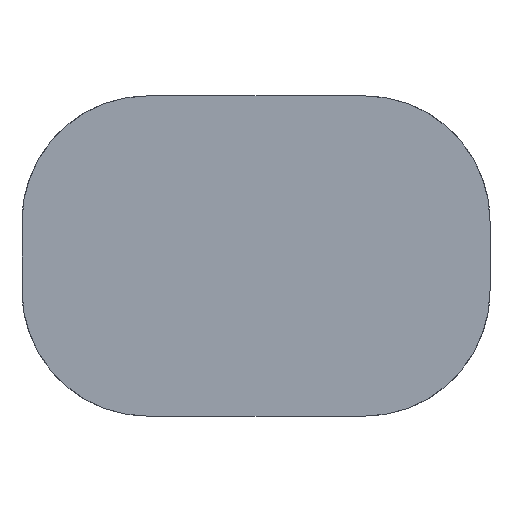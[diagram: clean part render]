
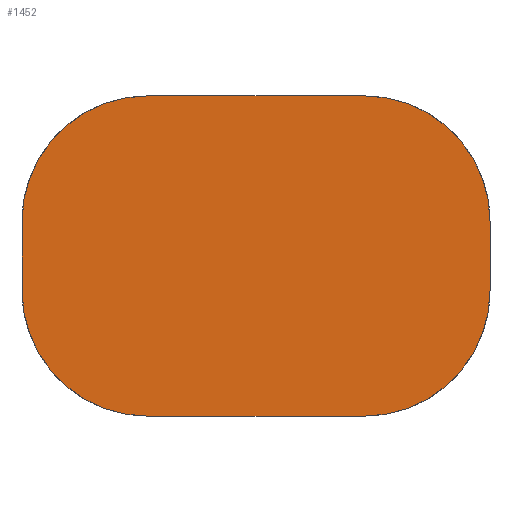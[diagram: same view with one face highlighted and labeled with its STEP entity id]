
A CAD part, left-side view. The second image highlights one B-rep face of the part: STEP entity #1452.
In plain terms, the highlighted planar face has unit normal (-1, 0, 0).
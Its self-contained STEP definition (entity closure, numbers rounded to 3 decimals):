
#33 = PLANE('',#34);
#34 = AXIS2_PLACEMENT_3D('',#35,#36,#37);
#35 = CARTESIAN_POINT('',(40.9,20.5,6.5));
#36 = DIRECTION('',(0.,0.,-1.));
#37 = DIRECTION('',(1.,0.,0.));
#85 = VERTEX_POINT('',#86);
#86 = CARTESIAN_POINT('',(43.1,25.6,6.5));
#100 = CYLINDRICAL_SURFACE('',#101,5.1);
#101 = AXIS2_PLACEMENT_3D('',#102,#103,#104);
#102 = CARTESIAN_POINT('',(40.9,25.6,1.4));
#103 = DIRECTION('',(1.,0.,0.));
#104 = DIRECTION('',(0.,0.,1.));
#112 = EDGE_CURVE('',#113,#85,#115,.T.);
#113 = VERTEX_POINT('',#114);
#114 = CARTESIAN_POINT('',(43.1,34.4,6.5));
#115 = SURFACE_CURVE('',#116,(#120,#127),.PCURVE_S1.);
#116 = LINE('',#117,#118);
#117 = CARTESIAN_POINT('',(43.1,0.25,6.5));
#118 = VECTOR('',#119,1.);
#119 = DIRECTION('',(0.,-1.,0.));
#120 = PCURVE('',#33,#121);
#121 = DEFINITIONAL_REPRESENTATION('',(#122),#126);
#122 = LINE('',#123,#124);
#123 = CARTESIAN_POINT('',(2.2,20.25));
#124 = VECTOR('',#125,1.);
#125 = DIRECTION('',(0.,1.));
#126 = ( GEOMETRIC_REPRESENTATION_CONTEXT(2) 
PARAMETRIC_REPRESENTATION_CONTEXT() REPRESENTATION_CONTEXT('2D SPACE',''
  ) );
#127 = PCURVE('',#128,#133);
#128 = PLANE('',#129);
#129 = AXIS2_PLACEMENT_3D('',#130,#131,#132);
#130 = CARTESIAN_POINT('',(43.1,-20.,-25.));
#131 = DIRECTION('',(1.,0.,0.));
#132 = DIRECTION('',(0.,0.,1.));
#133 = DEFINITIONAL_REPRESENTATION('',(#134),#138);
#134 = LINE('',#135,#136);
#135 = CARTESIAN_POINT('',(31.5,-20.25));
#136 = VECTOR('',#137,1.);
#137 = DIRECTION('',(0.,1.));
#138 = ( GEOMETRIC_REPRESENTATION_CONTEXT(2) 
PARAMETRIC_REPRESENTATION_CONTEXT() REPRESENTATION_CONTEXT('2D SPACE',''
  ) );
#154 = CYLINDRICAL_SURFACE('',#155,5.1);
#155 = AXIS2_PLACEMENT_3D('',#156,#157,#158);
#156 = CARTESIAN_POINT('',(40.9,34.4,1.4));
#157 = DIRECTION('',(1.,0.,0.));
#158 = DIRECTION('',(0.,0.,1.));
#216 = PLANE('',#217);
#217 = AXIS2_PLACEMENT_3D('',#218,#219,#220);
#218 = CARTESIAN_POINT('',(40.9,39.5,6.5));
#219 = DIRECTION('',(0.,1.,0.));
#220 = DIRECTION('',(1.,-0.,0.));
#302 = CYLINDRICAL_SURFACE('',#303,5.1);
#303 = AXIS2_PLACEMENT_3D('',#304,#305,#306);
#304 = CARTESIAN_POINT('',(40.9,34.4,-1.4));
#305 = DIRECTION('',(1.,0.,0.));
#306 = DIRECTION('',(0.,0.,-1.));
#387 = PLANE('',#388);
#388 = AXIS2_PLACEMENT_3D('',#389,#390,#391);
#389 = CARTESIAN_POINT('',(40.9,20.5,-6.5));
#390 = DIRECTION('',(0.,0.,-1.));
#391 = DIRECTION('',(1.,0.,0.));
#473 = CYLINDRICAL_SURFACE('',#474,5.1);
#474 = AXIS2_PLACEMENT_3D('',#475,#476,#477);
#475 = CARTESIAN_POINT('',(40.9,25.6,-1.4));
#476 = DIRECTION('',(1.,0.,0.));
#477 = DIRECTION('',(0.,0.,-1.));
#536 = PLANE('',#537);
#537 = AXIS2_PLACEMENT_3D('',#538,#539,#540);
#538 = CARTESIAN_POINT('',(40.9,20.5,6.5));
#539 = DIRECTION('',(0.,1.,0.));
#540 = DIRECTION('',(1.,-0.,0.));
#1408 = VERTEX_POINT('',#1409);
#1409 = CARTESIAN_POINT('',(43.1,39.5,1.4));
#1430 = EDGE_CURVE('',#1408,#113,#1431,.T.);
#1431 = SURFACE_CURVE('',#1432,(#1437,#1444),.PCURVE_S1.);
#1432 = CIRCLE('',#1433,5.1);
#1433 = AXIS2_PLACEMENT_3D('',#1434,#1435,#1436);
#1434 = CARTESIAN_POINT('',(43.1,34.4,1.4));
#1435 = DIRECTION('',(1.,0.,0.));
#1436 = DIRECTION('',(0.,0.,1.));
#1437 = PCURVE('',#154,#1438);
#1438 = DEFINITIONAL_REPRESENTATION('',(#1439),#1443);
#1439 = LINE('',#1440,#1441);
#1440 = CARTESIAN_POINT('',(0.,2.2));
#1441 = VECTOR('',#1442,1.);
#1442 = DIRECTION('',(1.,-0.));
#1443 = ( GEOMETRIC_REPRESENTATION_CONTEXT(2) 
PARAMETRIC_REPRESENTATION_CONTEXT() REPRESENTATION_CONTEXT('2D SPACE',''
  ) );
#1444 = PCURVE('',#128,#1445);
#1445 = DEFINITIONAL_REPRESENTATION('',(#1446),#1450);
#1446 = CIRCLE('',#1447,5.1);
#1447 = AXIS2_PLACEMENT_2D('',#1448,#1449);
#1448 = CARTESIAN_POINT('',(26.4,-54.4));
#1449 = DIRECTION('',(1.,0.));
#1450 = ( GEOMETRIC_REPRESENTATION_CONTEXT(2) 
PARAMETRIC_REPRESENTATION_CONTEXT() REPRESENTATION_CONTEXT('2D SPACE',''
  ) );
#1452 = ADVANCED_FACE('',(#1453),#128,.F.);
#1453 = FACE_BOUND('',#1454,.F.);
#1454 = EDGE_LOOP('',(#1455,#1456,#1457,#1481,#1504,#1528,#1551,#1575));
#1455 = ORIENTED_EDGE('',*,*,#1430,.T.);
#1456 = ORIENTED_EDGE('',*,*,#112,.T.);
#1457 = ORIENTED_EDGE('',*,*,#1458,.T.);
#1458 = EDGE_CURVE('',#85,#1459,#1461,.T.);
#1459 = VERTEX_POINT('',#1460);
#1460 = CARTESIAN_POINT('',(43.1,20.5,1.4));
#1461 = SURFACE_CURVE('',#1462,(#1467,#1474),.PCURVE_S1.);
#1462 = CIRCLE('',#1463,5.1);
#1463 = AXIS2_PLACEMENT_3D('',#1464,#1465,#1466);
#1464 = CARTESIAN_POINT('',(43.1,25.6,1.4));
#1465 = DIRECTION('',(1.,0.,0.));
#1466 = DIRECTION('',(0.,0.,1.));
#1467 = PCURVE('',#128,#1468);
#1468 = DEFINITIONAL_REPRESENTATION('',(#1469),#1473);
#1469 = CIRCLE('',#1470,5.1);
#1470 = AXIS2_PLACEMENT_2D('',#1471,#1472);
#1471 = CARTESIAN_POINT('',(26.4,-45.6));
#1472 = DIRECTION('',(1.,0.));
#1473 = ( GEOMETRIC_REPRESENTATION_CONTEXT(2) 
PARAMETRIC_REPRESENTATION_CONTEXT() REPRESENTATION_CONTEXT('2D SPACE',''
  ) );
#1474 = PCURVE('',#100,#1475);
#1475 = DEFINITIONAL_REPRESENTATION('',(#1476),#1480);
#1476 = LINE('',#1477,#1478);
#1477 = CARTESIAN_POINT('',(0.,2.2));
#1478 = VECTOR('',#1479,1.);
#1479 = DIRECTION('',(1.,0.));
#1480 = ( GEOMETRIC_REPRESENTATION_CONTEXT(2) 
PARAMETRIC_REPRESENTATION_CONTEXT() REPRESENTATION_CONTEXT('2D SPACE',''
  ) );
#1481 = ORIENTED_EDGE('',*,*,#1482,.T.);
#1482 = EDGE_CURVE('',#1459,#1483,#1485,.T.);
#1483 = VERTEX_POINT('',#1484);
#1484 = CARTESIAN_POINT('',(43.1,20.5,-1.4));
#1485 = SURFACE_CURVE('',#1486,(#1490,#1497),.PCURVE_S1.);
#1486 = LINE('',#1487,#1488);
#1487 = CARTESIAN_POINT('',(43.1,20.5,-9.25));
#1488 = VECTOR('',#1489,1.);
#1489 = DIRECTION('',(0.,0.,-1.));
#1490 = PCURVE('',#128,#1491);
#1491 = DEFINITIONAL_REPRESENTATION('',(#1492),#1496);
#1492 = LINE('',#1493,#1494);
#1493 = CARTESIAN_POINT('',(15.75,-40.5));
#1494 = VECTOR('',#1495,1.);
#1495 = DIRECTION('',(-1.,0.));
#1496 = ( GEOMETRIC_REPRESENTATION_CONTEXT(2) 
PARAMETRIC_REPRESENTATION_CONTEXT() REPRESENTATION_CONTEXT('2D SPACE',''
  ) );
#1497 = PCURVE('',#536,#1498);
#1498 = DEFINITIONAL_REPRESENTATION('',(#1499),#1503);
#1499 = LINE('',#1500,#1501);
#1500 = CARTESIAN_POINT('',(2.2,15.75));
#1501 = VECTOR('',#1502,1.);
#1502 = DIRECTION('',(0.,1.));
#1503 = ( GEOMETRIC_REPRESENTATION_CONTEXT(2) 
PARAMETRIC_REPRESENTATION_CONTEXT() REPRESENTATION_CONTEXT('2D SPACE',''
  ) );
#1504 = ORIENTED_EDGE('',*,*,#1505,.T.);
#1505 = EDGE_CURVE('',#1483,#1506,#1508,.T.);
#1506 = VERTEX_POINT('',#1507);
#1507 = CARTESIAN_POINT('',(43.1,25.6,-6.5));
#1508 = SURFACE_CURVE('',#1509,(#1514,#1521),.PCURVE_S1.);
#1509 = CIRCLE('',#1510,5.1);
#1510 = AXIS2_PLACEMENT_3D('',#1511,#1512,#1513);
#1511 = CARTESIAN_POINT('',(43.1,25.6,-1.4));
#1512 = DIRECTION('',(1.,0.,0.));
#1513 = DIRECTION('',(0.,0.,-1.));
#1514 = PCURVE('',#128,#1515);
#1515 = DEFINITIONAL_REPRESENTATION('',(#1516),#1520);
#1516 = CIRCLE('',#1517,5.1);
#1517 = AXIS2_PLACEMENT_2D('',#1518,#1519);
#1518 = CARTESIAN_POINT('',(23.6,-45.6));
#1519 = DIRECTION('',(-1.,0.));
#1520 = ( GEOMETRIC_REPRESENTATION_CONTEXT(2) 
PARAMETRIC_REPRESENTATION_CONTEXT() REPRESENTATION_CONTEXT('2D SPACE',''
  ) );
#1521 = PCURVE('',#473,#1522);
#1522 = DEFINITIONAL_REPRESENTATION('',(#1523),#1527);
#1523 = LINE('',#1524,#1525);
#1524 = CARTESIAN_POINT('',(0.,2.2));
#1525 = VECTOR('',#1526,1.);
#1526 = DIRECTION('',(1.,-0.));
#1527 = ( GEOMETRIC_REPRESENTATION_CONTEXT(2) 
PARAMETRIC_REPRESENTATION_CONTEXT() REPRESENTATION_CONTEXT('2D SPACE',''
  ) );
#1528 = ORIENTED_EDGE('',*,*,#1529,.F.);
#1529 = EDGE_CURVE('',#1530,#1506,#1532,.T.);
#1530 = VERTEX_POINT('',#1531);
#1531 = CARTESIAN_POINT('',(43.1,34.4,-6.5));
#1532 = SURFACE_CURVE('',#1533,(#1537,#1544),.PCURVE_S1.);
#1533 = LINE('',#1534,#1535);
#1534 = CARTESIAN_POINT('',(43.1,0.25,-6.5));
#1535 = VECTOR('',#1536,1.);
#1536 = DIRECTION('',(0.,-1.,0.));
#1537 = PCURVE('',#128,#1538);
#1538 = DEFINITIONAL_REPRESENTATION('',(#1539),#1543);
#1539 = LINE('',#1540,#1541);
#1540 = CARTESIAN_POINT('',(18.5,-20.25));
#1541 = VECTOR('',#1542,1.);
#1542 = DIRECTION('',(0.,1.));
#1543 = ( GEOMETRIC_REPRESENTATION_CONTEXT(2) 
PARAMETRIC_REPRESENTATION_CONTEXT() REPRESENTATION_CONTEXT('2D SPACE',''
  ) );
#1544 = PCURVE('',#387,#1545);
#1545 = DEFINITIONAL_REPRESENTATION('',(#1546),#1550);
#1546 = LINE('',#1547,#1548);
#1547 = CARTESIAN_POINT('',(2.2,20.25));
#1548 = VECTOR('',#1549,1.);
#1549 = DIRECTION('',(0.,1.));
#1550 = ( GEOMETRIC_REPRESENTATION_CONTEXT(2) 
PARAMETRIC_REPRESENTATION_CONTEXT() REPRESENTATION_CONTEXT('2D SPACE',''
  ) );
#1551 = ORIENTED_EDGE('',*,*,#1552,.T.);
#1552 = EDGE_CURVE('',#1530,#1553,#1555,.T.);
#1553 = VERTEX_POINT('',#1554);
#1554 = CARTESIAN_POINT('',(43.1,39.5,-1.4));
#1555 = SURFACE_CURVE('',#1556,(#1561,#1568),.PCURVE_S1.);
#1556 = CIRCLE('',#1557,5.1);
#1557 = AXIS2_PLACEMENT_3D('',#1558,#1559,#1560);
#1558 = CARTESIAN_POINT('',(43.1,34.4,-1.4));
#1559 = DIRECTION('',(1.,0.,0.));
#1560 = DIRECTION('',(0.,0.,-1.));
#1561 = PCURVE('',#128,#1562);
#1562 = DEFINITIONAL_REPRESENTATION('',(#1563),#1567);
#1563 = CIRCLE('',#1564,5.1);
#1564 = AXIS2_PLACEMENT_2D('',#1565,#1566);
#1565 = CARTESIAN_POINT('',(23.6,-54.4));
#1566 = DIRECTION('',(-1.,0.));
#1567 = ( GEOMETRIC_REPRESENTATION_CONTEXT(2) 
PARAMETRIC_REPRESENTATION_CONTEXT() REPRESENTATION_CONTEXT('2D SPACE',''
  ) );
#1568 = PCURVE('',#302,#1569);
#1569 = DEFINITIONAL_REPRESENTATION('',(#1570),#1574);
#1570 = LINE('',#1571,#1572);
#1571 = CARTESIAN_POINT('',(0.,2.2));
#1572 = VECTOR('',#1573,1.);
#1573 = DIRECTION('',(1.,0.));
#1574 = ( GEOMETRIC_REPRESENTATION_CONTEXT(2) 
PARAMETRIC_REPRESENTATION_CONTEXT() REPRESENTATION_CONTEXT('2D SPACE',''
  ) );
#1575 = ORIENTED_EDGE('',*,*,#1576,.F.);
#1576 = EDGE_CURVE('',#1408,#1553,#1577,.T.);
#1577 = SURFACE_CURVE('',#1578,(#1582,#1589),.PCURVE_S1.);
#1578 = LINE('',#1579,#1580);
#1579 = CARTESIAN_POINT('',(43.1,39.5,-9.25));
#1580 = VECTOR('',#1581,1.);
#1581 = DIRECTION('',(0.,0.,-1.));
#1582 = PCURVE('',#128,#1583);
#1583 = DEFINITIONAL_REPRESENTATION('',(#1584),#1588);
#1584 = LINE('',#1585,#1586);
#1585 = CARTESIAN_POINT('',(15.75,-59.5));
#1586 = VECTOR('',#1587,1.);
#1587 = DIRECTION('',(-1.,0.));
#1588 = ( GEOMETRIC_REPRESENTATION_CONTEXT(2) 
PARAMETRIC_REPRESENTATION_CONTEXT() REPRESENTATION_CONTEXT('2D SPACE',''
  ) );
#1589 = PCURVE('',#216,#1590);
#1590 = DEFINITIONAL_REPRESENTATION('',(#1591),#1595);
#1591 = LINE('',#1592,#1593);
#1592 = CARTESIAN_POINT('',(2.2,15.75));
#1593 = VECTOR('',#1594,1.);
#1594 = DIRECTION('',(0.,1.));
#1595 = ( GEOMETRIC_REPRESENTATION_CONTEXT(2) 
PARAMETRIC_REPRESENTATION_CONTEXT() REPRESENTATION_CONTEXT('2D SPACE',''
  ) );
